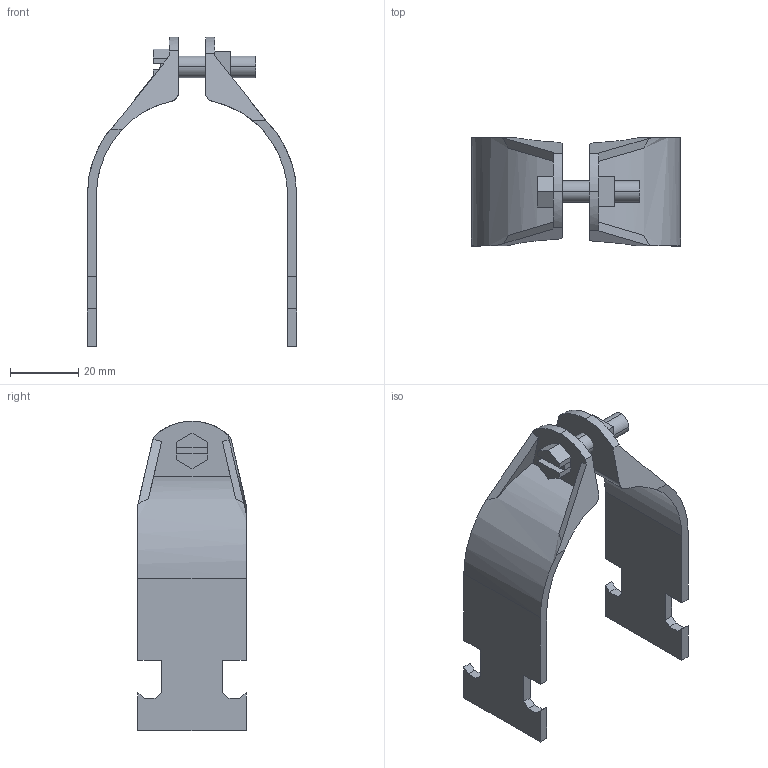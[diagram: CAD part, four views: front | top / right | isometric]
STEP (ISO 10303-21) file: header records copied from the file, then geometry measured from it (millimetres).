
FILE_DESCRIPTION(('TurboCAD Mac Pro'),'Build 980');
FILE_NAME('P1217.stp',' ',(''),(''),'ACIS Interop','IMSI','TurboCAD Mac Pro BY IMSI, INCORPORATED');
FILE_SCHEMA(('automotive_design'));
Length unit declared in the file: inch
Products named in the file (5): 1; 2; 3; 4; 5
Bounding box: 61.37 x 31.75 x 90.88 mm (x, y, z)
Volume: 17394.8 mm3; surface area: 14801 mm2
Topology: 4 solids, 4 shells, 97 faces, 260 edges, 172 vertices
Faces by surface type: plane 77, bspline 20
Entity records: 4293 total; most frequent: CARTESIAN_POINT 950, ORIENTED_EDGE 520, DIRECTION 376, EDGE_CURVE 260, LINE 212, VECTOR 212, VERTEX_POINT 172, STYLED_ITEM 121
